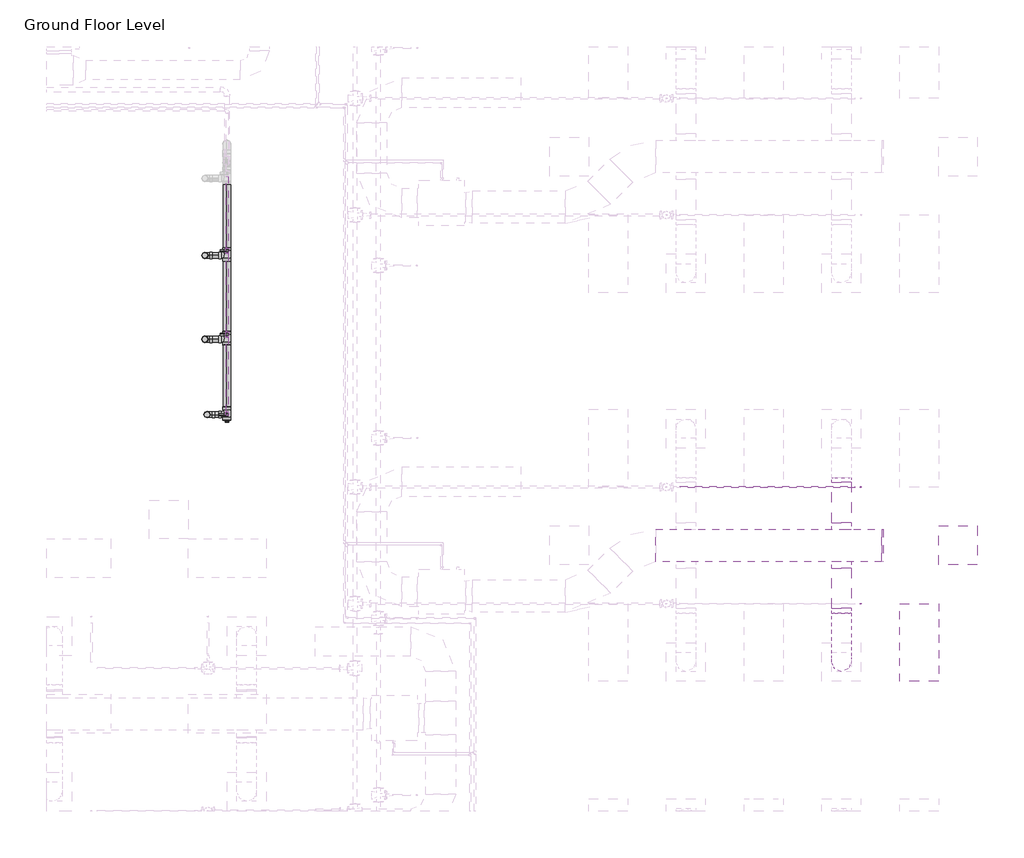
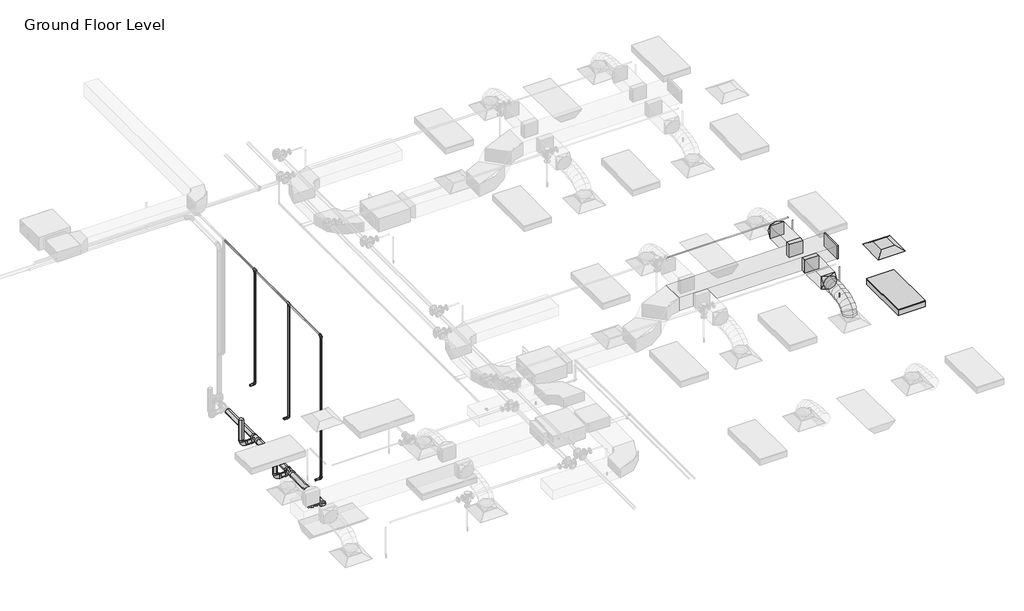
# One storey, part 65 of 74: 21 pipe segments, 13 pipe fittings, 5 duct fittings, 4 duct segments, 2 fire suppression terminals, 1 air terminal, 1 light fixture.
"""IFC4 building model written with IfcOpenShell, lengths in millimetres."""

from ifc_helpers import new_model, si_unit, point, frame, frame_2d, origin, place, context, project, spatial, polyline, circle_curve, ellipse_curve, trimmed, segment, composite_curve, outline, extrude, transform, mapped, element, save
from ifc_brep_helpers import plane_surface, cylinder_surface, advanced_brep
from components import m_return_diffuser_600_x_600_face_300_x_300_connection_ff221211, m_rectangular_endcap_standard_72d4d00d, m_rectangular_takeoff_standard_cb0ccb98, m_rectangular_takeoff_standard_2be5eba1, m_rectangular_to_round_transition_angle_45_degree_641efff0, m_sprinkler_dry_pendent_hosted_15_mm_dry_pendent_9bda8e11, m_troffer_light_parabolic_rectangular1_0600x1200mm_4_lamp_86473d4a, m_bend_pvc_sch_40_dwv_standard_a4b99d37, m_plug_pvc_sch_40_dwv_standard_6c40de1c, m_tee_reducing_sanitary_pvc_sch_40_dwv_standard_b49161a9, standard_517a5a8d, standard_72b35c3b, standard_bfa7e4ca

model = new_model("IFC4")

# Units and contexts
model_context = context("Model", 3, world=origin())
ifc_project = project(units=[si_unit("LENGTHUNIT", "METRE", prefix="MILLI")], contexts=[model_context])

# Site, building, storey
site = spatial("IfcSite", under=ifc_project)
building = spatial("IfcBuilding", under=site)
storey = spatial("IfcBuildingStorey", under=building, Name="Ground Floor Level", Elevation=900.0)

# Air terminal
placement = place(None, origin())
m_return_diffuser_600_x_600_face_300_x_300_connection_shape = m_return_diffuser_600_x_600_face_300_x_300_connection_ff221211(model_context)
element("IfcAirTerminal", 1, ObjectType="M_Return Diffuser : 600 x 600 Face 300 x 300 Connection", at=placement, inside=storey, context=model_context, shape_type="MappedRepresentation", body=[
    mapped(m_return_diffuser_600_x_600_face_300_x_300_connection_shape, transform((14942.7672395, 6735.2153534, 3650.0), x_axis=(1.0, 0.0, 0.0), y_axis=(0.0, 1.0, 0.0), z_axis=(0.0, 0.0, 1.0))),
])

# Duct fittings
m_rectangular_endcap_standard_shape = m_rectangular_endcap_standard_72d4d00d(model_context)
element("IfcDuctFitting", 2, ObjectType="M_Rectangular Endcap : Standard", at=placement, inside=storey, context=model_context, shape_type="MappedRepresentation", body=[
    mapped(m_rectangular_endcap_standard_shape, transform((13766.7301365, 6735.2153534, 4100.0), x_axis=(1.0, 0.0, 0.0), y_axis=(0.0, 1.0, 0.0), z_axis=(0.0, 0.0, 1.0))),
])
m_rectangular_takeoff_standard_shape = m_rectangular_takeoff_standard_cb0ccb98(model_context)
element("IfcDuctFitting", 3, ObjectType="M_Rectangular Takeoff : Standard", at=placement, inside=storey, context=model_context, shape_type="MappedRepresentation", body=[
    mapped(m_rectangular_takeoff_standard_shape, transform((13142.7672395, 6985.2153534, 4100.0), x_axis=(0.0, 1.0, 0.0), y_axis=(1.0, 0.0, 0.0), z_axis=(0.0, 0.0, -1.0))),
])
m_rectangular_takeoff_standard_2_shape = m_rectangular_takeoff_standard_2be5eba1(model_context)
element("IfcDuctFitting", 4, ObjectType="M_Rectangular Takeoff : Standard", at=placement, inside=storey, context=model_context, shape_type="MappedRepresentation", body=[
    mapped(m_rectangular_takeoff_standard_2_shape, transform((13142.7672395, 6485.2153534, 4100.0), x_axis=(0.0, -1.0, 0.0), y_axis=(-1.0, 0.0, 0.0), z_axis=(0.0, 0.0, -1.0))),
])
m_rectangular_to_round_transition_angle_45_degree_shape = m_rectangular_to_round_transition_angle_45_degree_641efff0(model_context)
element("IfcDuctFitting", 5, ObjectType="M_Rectangular to Round Transition - Angle : 45 Degree", at=placement, inside=storey, context=model_context, shape_type="MappedRepresentation", body=[
    mapped(m_rectangular_to_round_transition_angle_45_degree_shape, transform((13142.7672395, 5762.5512847, 4100.0), x_axis=(0.0, -1.0, 0.0), y_axis=(1.0, 0.0, 0.0), z_axis=(0.0, 0.0, 1.0))),
])
element("IfcDuctFitting", 6, ObjectType="M_Rectangular to Round Transition - Angle : 45 Degree", at=placement, inside=storey, context=model_context, shape_type="MappedRepresentation", body=[
    mapped(m_rectangular_to_round_transition_angle_45_degree_shape, transform((13142.7672395, 7707.8794221, 4100.0), x_axis=(0.0, 1.0, 0.0), y_axis=(-1.0, 0.0, 0.0), z_axis=(0.0, 0.0, 1.0))),
])

# Duct segments
element("IfcDuctSegment", 7, ObjectType="Flex - Round", at=placement, inside=storey, context=model_context, shape_type="AdvancedBrep", body=[
    advanced_brep(
    [(13292.7672395, 4935.2153534, 3826.6), (13142.7672395, 4785.2153534, 3826.6), (12992.7672395, 4935.2153534, 3826.6), (13142.7672395, 5085.2153534, 3826.6), (13292.7672395, 4935.2153534, 3857.9377114), (13142.7672395, 4785.2153534, 3883.5809337), (12992.7672395, 4935.2153534, 3857.9377114), (13142.7672395, 5085.2153534, 3832.2944892), (13292.7672395, 4952.2312859, 3906.2505728), (13142.7672395, 4818.493307, 3978.0660967), (12992.7672395, 4952.2312859, 3906.2505728), (13142.7672395, 5085.9692649, 3834.435049), (13292.7672395, 4999.4151663, 3968.7113131), (13142.7672395, 4895.209267, 4079.6206026), (12992.7672395, 4999.4151663, 3968.7113131), (13142.7672395, 5103.6210655, 3857.8020236), (13292.7672395, 5070.9711184, 4016.0700639), (13142.7672395, 5002.0370628, 4150.3237489), (12992.7672395, 5070.9711184, 4016.0700639), (13142.7672395, 5139.9051741, 3881.8163788), (13292.7672395, 5161.1032664, 4050.4146682), (13142.7672395, 5117.5425033, 4194.3367758), (12992.7672395, 5161.1032664, 4050.4146682), (13142.7672395, 5204.6640296, 3906.4925606), (13292.7672395, 5264.0157343, 4073.8329691), (13142.7672395, 5237.4548103, 4221.6234841), (12992.7672395, 5264.0157343, 4073.8329691), (13142.7672395, 5290.5766583, 3926.0424542), (13292.7672395, 5373.912646, 4088.4128097), (13142.7672395, 5358.7617437, 4237.7170733), (12992.7672395, 5373.912646, 4088.4128097), (13142.7672395, 5389.0635483, 3939.1085462), (13292.7672395, 5484.9981256, 4096.242033), (13142.7672395, 5477.4927974, 4246.085151), (12992.7672395, 5484.9981256, 4096.242033), (13142.7672395, 5492.5034538, 3946.398915), (13292.7672395, 5591.4762972, 4099.4084821), (13142.7672395, 5588.7848041, 4249.394754), (12992.7672395, 5591.4762972, 4099.4084821), (13142.7672395, 5594.1677903, 3949.4222102), (13292.7672395, 5687.5512847, 4100.0), (13142.7672395, 5688.4747925, 3950.0028429), (12992.7672395, 5687.5512847, 4100.0), (13142.7672395, 5686.6277768, 4249.9971571)],
    [
        (0, 1, circle_curve(frame((13142.7672395, 4935.2153534, 3826.6), z_axis=(0.0, 0.0, -1.0), x_axis=(1.0, 0.0, 0.0)), 150.0)),
        (1, 2, circle_curve(frame((13142.7672395, 4935.2153534, 3826.6), z_axis=(0.0, 0.0, -1.0), x_axis=(1.0, 0.0, 0.0)), 150.0)),
        (2, 3, circle_curve(frame((13142.7672395, 4935.2153534, 3826.6), z_axis=(0.0, 0.0, -1.0), x_axis=(1.0, 0.0, 0.0)), 150.0)),
        (3, 0, circle_curve(frame((13142.7672395, 4935.2153534, 3826.6), z_axis=(0.0, 0.0, -1.0), x_axis=(1.0, 0.0, 0.0)), 150.0)),
        (0, 4),
        (4, 5, ellipse_curve(frame((13142.7672395, 4935.2153534, 3857.9377114), z_axis=(0.0, -0.16851014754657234, -0.9856999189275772), x_axis=(0.0, 0.9856999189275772, -0.1685101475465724)), 152.176131, 150.0)),
        (5, 1),
        (5, 6, ellipse_curve(frame((13142.7672395, 4935.2153534, 3857.9377114), z_axis=(0.0, -0.16851014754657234, -0.9856999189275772), x_axis=(0.0, 0.9856999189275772, -0.1685101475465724)), 152.176131, 150.0)),
        (6, 2),
        (6, 7, ellipse_curve(frame((13142.7672395, 4935.2153534, 3857.9377114), z_axis=(0.0, -0.16851014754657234, -0.9856999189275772), x_axis=(0.0, 0.9856999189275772, -0.1685101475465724)), 152.176131, 150.0)),
        (7, 3),
        (7, 4, ellipse_curve(frame((13142.7672395, 4935.2153534, 3857.9377114), z_axis=(0.0, -0.16851014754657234, -0.9856999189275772), x_axis=(0.0, 0.9856999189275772, -0.1685101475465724)), 152.176131, 150.0)),
        (4, 8),
        (8, 9, ellipse_curve(frame((13142.7672395, 4952.2312859, 3906.2505728), z_axis=(0.0, -0.4730922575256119, -0.8810128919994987), x_axis=(0.0, 0.8810128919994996, -0.47309225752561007)), 151.8002519, 150.0)),
        (9, 5),
        (9, 10, ellipse_curve(frame((13142.7672395, 4952.2312859, 3906.2505728), z_axis=(0.0, -0.4730922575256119, -0.8810128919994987), x_axis=(0.0, 0.8810128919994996, -0.47309225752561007)), 151.8002519, 150.0)),
        (10, 6),
        (10, 11, ellipse_curve(frame((13142.7672395, 4952.2312859, 3906.2505728), z_axis=(0.0, -0.4730922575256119, -0.8810128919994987), x_axis=(0.0, 0.8810128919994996, -0.47309225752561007)), 151.8002519, 150.0)),
        (11, 7),
        (11, 8, ellipse_curve(frame((13142.7672395, 4952.2312859, 3906.2505728), z_axis=(0.0, -0.4730922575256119, -0.8810128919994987), x_axis=(0.0, 0.8810128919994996, -0.47309225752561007)), 151.8002519, 150.0)),
        (8, 12),
        (12, 13, ellipse_curve(frame((13142.7672395, 4999.4151663, 3968.7113131), z_axis=(0.0, -0.7287877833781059, -0.6847396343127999), x_axis=(0.0, 0.6847396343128, -0.7287877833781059)), 152.1832446, 150.0)),
        (13, 9),
        (13, 14, ellipse_curve(frame((13142.7672395, 4999.4151663, 3968.7113131), z_axis=(0.0, -0.7287877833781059, -0.6847396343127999), x_axis=(0.0, 0.6847396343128, -0.7287877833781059)), 152.1832446, 150.0)),
        (14, 10),
        (14, 15, ellipse_curve(frame((13142.7672395, 4999.4151663, 3968.7113131), z_axis=(0.0, -0.7287877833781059, -0.6847396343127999), x_axis=(0.0, 0.6847396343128, -0.7287877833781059)), 152.1832446, 150.0)),
        (15, 11),
        (15, 12, ellipse_curve(frame((13142.7672395, 4999.4151663, 3968.7113131), z_axis=(0.0, -0.7287877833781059, -0.6847396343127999), x_axis=(0.0, 0.6847396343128, -0.7287877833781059)), 152.1832446, 150.0)),
        (12, 16),
        (16, 17, ellipse_curve(frame((13142.7672395, 5070.9711184, 4016.0700639), z_axis=(0.0, -0.8895859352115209, -0.4567678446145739), x_axis=(0.0, 0.4567678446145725, -0.8895859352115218)), 150.91705, 150.0)),
        (17, 13),
        (17, 18, ellipse_curve(frame((13142.7672395, 5070.9711184, 4016.0700639), z_axis=(0.0, -0.8895859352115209, -0.4567678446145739), x_axis=(0.0, 0.4567678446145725, -0.8895859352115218)), 150.91705, 150.0)),
        (18, 14),
        (18, 19, ellipse_curve(frame((13142.7672395, 5070.9711184, 4016.0700639), z_axis=(0.0, -0.8895859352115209, -0.4567678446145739), x_axis=(0.0, 0.4567678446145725, -0.8895859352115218)), 150.91705, 150.0)),
        (19, 15),
        (19, 16, ellipse_curve(frame((13142.7672395, 5070.9711184, 4016.0700639), z_axis=(0.0, -0.8895859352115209, -0.4567678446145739), x_axis=(0.0, 0.4567678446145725, -0.8895859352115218)), 150.91705, 150.0)),
        (16, 20),
        (20, 21, ellipse_curve(frame((13142.7672395, 5161.1032664, 4050.4146682), z_axis=(0.0, -0.9571203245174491, -0.28969067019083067), x_axis=(0.0, 0.28969067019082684, -0.9571203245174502)), 150.369921, 150.0)),
        (21, 17),
        (21, 22, ellipse_curve(frame((13142.7672395, 5161.1032664, 4050.4146682), z_axis=(0.0, -0.9571203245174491, -0.28969067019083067), x_axis=(0.0, 0.28969067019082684, -0.9571203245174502)), 150.369921, 150.0)),
        (22, 18),
        (22, 23, ellipse_curve(frame((13142.7672395, 5161.1032664, 4050.4146682), z_axis=(0.0, -0.9571203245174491, -0.28969067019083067), x_axis=(0.0, 0.28969067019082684, -0.9571203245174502)), 150.369921, 150.0)),
        (23, 19),
        (23, 20, ellipse_curve(frame((13142.7672395, 5161.1032664, 4050.4146682), z_axis=(0.0, -0.9571203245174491, -0.28969067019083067), x_axis=(0.0, 0.28969067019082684, -0.9571203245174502)), 150.369921, 150.0)),
        (20, 24),
        (24, 25, ellipse_curve(frame((13142.7672395, 5264.0157343, 4073.8329691), z_axis=(0.0, -0.9842313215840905, -0.17688613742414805), x_axis=(0.0, 0.17688613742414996, -0.9842313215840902)), 150.1583131, 150.0)),
        (25, 21),
        (25, 26, ellipse_curve(frame((13142.7672395, 5264.0157343, 4073.8329691), z_axis=(0.0, -0.9842313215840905, -0.17688613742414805), x_axis=(0.0, 0.17688613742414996, -0.9842313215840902)), 150.1583131, 150.0)),
        (26, 22),
        (26, 27, ellipse_curve(frame((13142.7672395, 5264.0157343, 4073.8329691), z_axis=(0.0, -0.9842313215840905, -0.17688613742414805), x_axis=(0.0, 0.17688613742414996, -0.9842313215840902)), 150.1583131, 150.0)),
        (27, 23),
        (27, 24, ellipse_curve(frame((13142.7672395, 5264.0157343, 4073.8329691), z_axis=(0.0, -0.9842313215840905, -0.17688613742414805), x_axis=(0.0, 0.17688613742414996, -0.9842313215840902)), 150.1583131, 150.0)),
        (24, 28),
        (28, 29, ellipse_curve(frame((13142.7672395, 5373.912646, 4088.4128097), z_axis=(0.0, -0.9948906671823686, -0.10095821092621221), x_axis=(0.0, 0.10095821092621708, -0.9948906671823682)), 150.0710264, 150.0)),
        (29, 25),
        (29, 30, ellipse_curve(frame((13142.7672395, 5373.912646, 4088.4128097), z_axis=(0.0, -0.9948906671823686, -0.10095821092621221), x_axis=(0.0, 0.10095821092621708, -0.9948906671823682)), 150.0710264, 150.0)),
        (30, 26),
        (30, 31, ellipse_curve(frame((13142.7672395, 5373.912646, 4088.4128097), z_axis=(0.0, -0.9948906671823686, -0.10095821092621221), x_axis=(0.0, 0.10095821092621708, -0.9948906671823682)), 150.0710264, 150.0)),
        (31, 27),
        (31, 28, ellipse_curve(frame((13142.7672395, 5373.912646, 4088.4128097), z_axis=(0.0, -0.9948906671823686, -0.10095821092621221), x_axis=(0.0, 0.10095821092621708, -0.9948906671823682)), 150.0710264, 150.0)),
        (28, 32),
        (32, 33, ellipse_curve(frame((13142.7672395, 5484.9981256, 4096.242033), z_axis=(0.0, -0.9987479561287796, -0.05002519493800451), x_axis=(0.0, 0.050025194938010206, -0.9987479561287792)), 150.0309634, 150.0)),
        (33, 29),
        (33, 34, ellipse_curve(frame((13142.7672395, 5484.9981256, 4096.242033), z_axis=(0.0, -0.9987479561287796, -0.05002519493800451), x_axis=(0.0, 0.050025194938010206, -0.9987479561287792)), 150.0309634, 150.0)),
        (34, 30),
        (34, 35, ellipse_curve(frame((13142.7672395, 5484.9981256, 4096.242033), z_axis=(0.0, -0.9987479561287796, -0.05002519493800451), x_axis=(0.0, 0.050025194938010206, -0.9987479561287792)), 150.0309634, 150.0)),
        (35, 31),
        (35, 32, ellipse_curve(frame((13142.7672395, 5484.9981256, 4096.242033), z_axis=(0.0, -0.9987479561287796, -0.05002519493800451), x_axis=(0.0, 0.050025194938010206, -0.9987479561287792)), 150.0309634, 150.0)),
        (32, 36),
        (36, 37, ellipse_curve(frame((13142.7672395, 5591.4762972, 4099.4084821), z_axis=(0.0, -0.9998390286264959, -0.017942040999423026), x_axis=(0.0, 0.01794204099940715, -0.9998390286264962)), 150.0104193, 150.0)),
        (37, 33),
        (37, 38, ellipse_curve(frame((13142.7672395, 5591.4762972, 4099.4084821), z_axis=(0.0, -0.9998390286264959, -0.017942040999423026), x_axis=(0.0, 0.01794204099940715, -0.9998390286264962)), 150.0104193, 150.0)),
        (38, 34),
        (38, 39, ellipse_curve(frame((13142.7672395, 5591.4762972, 4099.4084821), z_axis=(0.0, -0.9998390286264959, -0.017942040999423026), x_axis=(0.0, 0.01794204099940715, -0.9998390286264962)), 150.0104193, 150.0)),
        (39, 35),
        (39, 36, ellipse_curve(frame((13142.7672395, 5591.4762972, 4099.4084821), z_axis=(0.0, -0.9998390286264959, -0.017942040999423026), x_axis=(0.0, 0.01794204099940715, -0.9998390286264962)), 150.0104193, 150.0)),
        (40, 41, circle_curve(frame((13142.7672395, 5687.5512847, 4100.0), z_axis=(0.0, 0.9999810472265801, 0.006156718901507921), x_axis=(1.0, 0.0, 0.0)), 150.0)),
        (41, 42, circle_curve(frame((13142.7672395, 5687.5512847, 4100.0), z_axis=(0.0, 0.9999810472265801, 0.006156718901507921), x_axis=(1.0, 0.0, 0.0)), 150.0)),
        (42, 43, circle_curve(frame((13142.7672395, 5687.5512847, 4100.0), z_axis=(0.0, 0.9999810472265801, 0.006156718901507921), x_axis=(1.0, 0.0, 0.0)), 150.0)),
        (43, 40, circle_curve(frame((13142.7672395, 5687.5512847, 4100.0), z_axis=(0.0, 0.9999810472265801, 0.006156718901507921), x_axis=(1.0, 0.0, 0.0)), 150.0)),
        (36, 40),
        (43, 37),
        (42, 38),
        (41, 39),
    ],
    [
        plane_surface(frame((13142.7672395, 4785.2153534, 3826.6), z_axis=(0.0, 0.0, -1.0), x_axis=(1.0, 0.0, 0.0))),
        cylinder_surface(frame((13142.7672395, 4935.2153534, 3826.6), z_axis=(0.0, 0.0, -1.0), x_axis=(1.0, 0.0, 0.0)), 150.0),
        cylinder_surface(frame((13142.7672395, 4935.2153534, 3857.9377114), z_axis=(0.0, -0.3322008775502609, -0.9432086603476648), x_axis=(1.0, 0.0, 0.0)), 150.0),
        cylinder_surface(frame((13142.7672395, 4952.2312859, 3906.2505728), z_axis=(0.0, -0.6027625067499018, -0.7979206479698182), x_axis=(1.0, 0.0, 0.0)), 150.0),
        cylinder_surface(frame((13142.7672395, 4999.4151663, 3968.7113131), z_axis=(0.0, -0.8339024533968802, -0.5519118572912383), x_axis=(1.0, 0.0, 0.0)), 150.0),
        cylinder_surface(frame((13142.7672395, 5070.9711184, 4016.0700639), z_axis=(0.0, -0.934458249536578, -0.35607271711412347), x_axis=(1.0, 0.0, 0.0)), 150.0),
        cylinder_surface(frame((13142.7672395, 5161.1032664, 4050.4146682), z_axis=(0.0, -0.9750732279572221, -0.22188330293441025), x_axis=(1.0, 0.0, 0.0)), 150.0),
        cylinder_surface(frame((13142.7672395, 5264.0157343, 4073.8329691), z_axis=(0.0, -0.9913140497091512, -0.1315159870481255), x_axis=(1.0, 0.0, 0.0)), 150.0),
        cylinder_surface(frame((13142.7672395, 5373.912646, 4088.4128097), z_axis=(0.0, -0.9975255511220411, -0.07030487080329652), x_axis=(1.0, 0.0, 0.0)), 150.0),
        cylinder_surface(frame((13142.7672395, 5484.9981256, 4096.242033), z_axis=(0.0, -0.9995581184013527, -0.02972487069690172), x_axis=(1.0, 0.0, 0.0)), 150.0),
        plane_surface(frame((13142.7672395, 5686.6277768, 4249.9971571), z_axis=(0.0, 0.9999810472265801, 0.0061567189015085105), x_axis=(1.0, 0.0, 0.0))),
        cylinder_surface(frame((13142.7672395, 5591.4762972, 4099.4084821), z_axis=(0.0, -0.9999810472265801, -0.006156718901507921), x_axis=(1.0, 0.0, 0.0)), 150.0),
    ],
    [
        (0, [[1, 2, 3, 4]]),
        (1, [[-1, 5, 6, 7]]),
        (1, [[-2, -7, 8, 9]]),
        (1, [[-3, -9, 10, 11]]),
        (1, [[-4, -11, 12, -5]]),
        (2, [[-6, 13, 14, 15]]),
        (2, [[-8, -15, 16, 17]]),
        (2, [[-10, -17, 18, 19]]),
        (2, [[-12, -19, 20, -13]]),
        (3, [[-14, 21, 22, 23]]),
        (3, [[-16, -23, 24, 25]]),
        (3, [[-18, -25, 26, 27]]),
        (3, [[-20, -27, 28, -21]]),
        (4, [[-22, 29, 30, 31]]),
        (4, [[-24, -31, 32, 33]]),
        (4, [[-26, -33, 34, 35]]),
        (4, [[-28, -35, 36, -29]]),
        (5, [[-30, 37, 38, 39]]),
        (5, [[-32, -39, 40, 41]]),
        (5, [[-34, -41, 42, 43]]),
        (5, [[-36, -43, 44, -37]]),
        (6, [[-38, 45, 46, 47]]),
        (6, [[-40, -47, 48, 49]]),
        (6, [[-42, -49, 50, 51]]),
        (6, [[-44, -51, 52, -45]]),
        (7, [[-46, 53, 54, 55]]),
        (7, [[-48, -55, 56, 57]]),
        (7, [[-50, -57, 58, 59]]),
        (7, [[-52, -59, 60, -53]]),
        (8, [[-54, 61, 62, 63]]),
        (8, [[-56, -63, 64, 65]]),
        (8, [[-58, -65, 66, 67]]),
        (8, [[-60, -67, 68, -61]]),
        (9, [[-62, 69, 70, 71]]),
        (9, [[-64, -71, 72, 73]]),
        (9, [[-66, -73, 74, 75]]),
        (9, [[-68, -75, 76, -69]]),
        (10, [[77, 78, 79, 80]]),
        (11, [[-70, 81, -80, 82]]),
        (11, [[-72, -82, -79, 83]]),
        (11, [[-74, -83, -78, 84]]),
        (11, [[-76, -84, -77, -81]]),
    ],
),
])
element("IfcDuctSegment", 8, ObjectType="Radius Elbows / Taps", at=placement, inside=storey, context=model_context, shape_type="SweptSolid", body=[
    extrude(outline(polyline([(10277.3903083, 6485.2153534), (10277.3903083, 6985.2153534), (13766.7301365, 6985.2153534), (13766.7301365, 6485.2153534), (10277.3903083, 6485.2153534)])), frame((0.0, 0.0, 3950.0), z_axis=(0.0, 0.0, 1.0), x_axis=(1.0, 0.0, 0.0)), (0.0, 0.0, 1.0), 300.0),
])
element("IfcDuctSegment", 9, ObjectType="Radius Elbows / Taps", at=placement, inside=storey, context=model_context, shape_type="SweptSolid", body=[
    extrude(outline(polyline([(13292.7672395, 7086.8153534), (12992.7672395, 7086.8153534), (12992.7672395, 7707.8794221), (13292.7672395, 7707.8794221), (13292.7672395, 7086.8153534)])), frame((0.0, 0.0, 3950.0), z_axis=(0.0, 0.0, 1.0), x_axis=(1.0, 0.0, 0.0)), (0.0, 0.0, 1.0), 300.0),
])
element("IfcDuctSegment", 10, ObjectType="Radius Elbows / Taps", at=placement, inside=storey, context=model_context, shape_type="SweptSolid", body=[
    extrude(outline(polyline([(12992.7672395, 6383.6153534), (13292.7672395, 6383.6153534), (13292.7672395, 5762.5512847), (12992.7672395, 5762.5512847), (12992.7672395, 6383.6153534)])), frame((0.0, 0.0, 3950.0), z_axis=(0.0, 0.0, 1.0), x_axis=(1.0, 0.0, 0.0)), (0.0, 0.0, 1.0), 300.0),
])

# Fire suppression terminals
m_sprinkler_dry_pendent_hosted_15_mm_dry_pendent_shape = m_sprinkler_dry_pendent_hosted_15_mm_dry_pendent_9bda8e11(model_context)
element("IfcFireSuppressionTerminal", 11, ObjectType="M_Sprinkler - Dry - Pendent - Hosted : 15 mm Dry Pendent", at=placement, inside=storey, context=model_context, shape_type="MappedRepresentation", body=[
    mapped(m_sprinkler_dry_pendent_hosted_15_mm_dry_pendent_shape, transform((13442.7672395, 7635.2153534, 3650.0), x_axis=(1.0, 0.0, 0.0), y_axis=(0.0, -1.0, 0.0), z_axis=(0.0, 0.0, -1.0))),
])
element("IfcFireSuppressionTerminal", 12, ObjectType="M_Sprinkler - Dry - Pendent - Hosted : 15 mm Dry Pendent", at=placement, inside=storey, context=model_context, shape_type="MappedRepresentation", body=[
    mapped(m_sprinkler_dry_pendent_hosted_15_mm_dry_pendent_shape, transform((13442.7672395, 5835.2153534, 3650.0), x_axis=(1.0, 0.0, 0.0), y_axis=(0.0, -1.0, 0.0), z_axis=(0.0, 0.0, -1.0))),
])

# Light fixture
m_troffer_light_parabolic_rectangular1_0600x1200mm_4_lamp_shape = m_troffer_light_parabolic_rectangular1_0600x1200mm_4_lamp_86473d4a(model_context)
element("IfcLightFixture", 13, ObjectType="M_Troffer Light - Parabolic Rectangular1 : 0600x1200mm(4 Lamp) - 277V 2", at=placement, inside=storey, context=model_context, shape_type="MappedRepresentation", body=[
    mapped(m_troffer_light_parabolic_rectangular1_0600x1200mm_4_lamp_shape, transform((14283.3013074, 5253.9188549, 3650.0), x_axis=(0.0, 1.0, 0.0), y_axis=(-1.0, 0.0, 0.0), z_axis=(0.0, 0.0, 1.0))),
])

# Pipe fittings
m_bend_pvc_sch_40_dwv_standard_shape = m_bend_pvc_sch_40_dwv_standard_a4b99d37(model_context)
element("IfcPipeFitting", 14, ObjectType="M_Bend - PVC - Sch 40 - DWV : Standard", at=placement, inside=storey, context=model_context, shape_type="MappedRepresentation", body=[
    mapped(m_bend_pvc_sch_40_dwv_standard_shape, transform((3351.3697667, 8754.4159333, 426.6255336), x_axis=(0.0, 0.0, -1.0), y_axis=(1.0, 0.0, 0.0), z_axis=(0.0, -1.0, 0.0))),
])
element("IfcPipeFitting", 15, ObjectType="M_Bend - PVC - Sch 40 - DWV : Standard", at=placement, inside=storey, context=model_context, shape_type="MappedRepresentation", body=[
    mapped(m_bend_pvc_sch_40_dwv_standard_shape, transform((3319.2245422, 9917.654001, 414.9931529), x_axis=(0.0, 0.0, -1.0), y_axis=(1.0, 0.0, 0.0), z_axis=(0.0, -1.0, 0.0))),
])
element("IfcPipeFitting", 16, ObjectType="M_Bend - PVC - Sch 40 - DWV : Standard", at=placement, inside=storey, context=model_context, shape_type="MappedRepresentation", body=[
    mapped(m_bend_pvc_sch_40_dwv_standard_shape, transform((3319.2245422, 11211.6258776, 402.0534342), x_axis=(0.0, 0.0, -1.0), y_axis=(1.0, 0.0, 0.0), z_axis=(0.0, -1.0, 0.0))),
])
m_plug_pvc_sch_40_dwv_standard_shape = m_plug_pvc_sch_40_dwv_standard_6c40de1c(model_context)
element("IfcPipeFitting", 17, ObjectType="M_Plug - PVC - Sch 40 - DWV : Standard", at=placement, inside=storey, context=model_context, shape_type="MappedRepresentation", body=[
    mapped(m_plug_pvc_sch_40_dwv_standard_shape, transform((3657.4922763, 8665.519878, 427.4644942), x_axis=(0.0, -0.9999500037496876, 0.009999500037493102), y_axis=(1.0, 0.0, 0.0), z_axis=(0.0, 0.009999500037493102, 0.9999500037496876))),
])
m_tee_reducing_sanitary_pvc_sch_40_dwv_standard_shape = m_tee_reducing_sanitary_pvc_sch_40_dwv_standard_b49161a9(model_context)
element("IfcPipeFitting", 18, ObjectType="M_Tee Reducing Sanitary - PVC - Sch 40 - DWV : Standard", at=placement, inside=storey, context=model_context, shape_type="MappedRepresentation", body=[
    mapped(m_tee_reducing_sanitary_pvc_sch_40_dwv_standard_shape, transform((3657.4922763, 8754.4154334, 426.5755386), x_axis=(0.0, -0.9999500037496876, 0.009999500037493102), y_axis=(1.0, 0.0, 0.0), z_axis=(0.0, 0.009999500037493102, 0.9999500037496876))),
])
element("IfcPipeFitting", 19, ObjectType="M_Tee Reducing Sanitary - PVC - Sch 40 - DWV : Standard", at=placement, inside=storey, context=model_context, shape_type="MappedRepresentation", body=[
    mapped(m_tee_reducing_sanitary_pvc_sch_40_dwv_standard_shape, transform((3657.4922763, 9917.6535011, 414.9431579), x_axis=(0.0, -0.9999500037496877, 0.009999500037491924), y_axis=(1.0000000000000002, 0.0, 0.0), z_axis=(0.0, 0.009999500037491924, 0.9999500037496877))),
])
element("IfcPipeFitting", 20, ObjectType="M_Tee Reducing Sanitary - PVC - Sch 40 - DWV : Standard", at=placement, inside=storey, context=model_context, shape_type="MappedRepresentation", body=[
    mapped(m_tee_reducing_sanitary_pvc_sch_40_dwv_standard_shape, transform((3657.4922763, 11211.6253777, 402.0034392), x_axis=(0.0, -0.9999500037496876, 0.00999950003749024), y_axis=(1.0, 0.0, 0.0), z_axis=(0.0, 0.00999950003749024, 0.9999500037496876))),
])
standard_shape = standard_517a5a8d(model_context)
element("IfcPipeFitting", 21, ObjectType="M_Elbow - CPVC - Sch 40 : Standard", at=placement, inside=storey, context=model_context, shape_type="MappedRepresentation", body=[
    mapped(standard_shape, transform((3662.4674395, 8754.4154334, 4315.0), x_axis=(0.0, -1.0, 0.0), y_axis=(0.0, 0.0, -1.0), z_axis=(1.0, 0.0, 0.0))),
])
element("IfcPipeFitting", 22, ObjectType="M_Elbow - CPVC - Sch 40 : Standard", at=placement, inside=storey, context=model_context, shape_type="MappedRepresentation", body=[
    mapped(standard_shape, transform((3662.4674395, 9991.0922673, 1655.0), x_axis=(0.0, 0.0, -1.0), y_axis=(-1.0, 0.0, 0.0), z_axis=(0.0, 1.0, 0.0))),
])
element("IfcPipeFitting", 23, ObjectType="M_Elbow - CPVC - Sch 40 : Standard", at=placement, inside=storey, context=model_context, shape_type="MappedRepresentation", body=[
    mapped(standard_shape, transform((3662.4674395, 11285.0641439, 1655.0), x_axis=(0.0, 0.0, -1.0), y_axis=(-1.0, 0.0, 0.0), z_axis=(0.0, 1.0, 0.0))),
])
standard_2_shape = standard_72b35c3b(model_context)
element("IfcPipeFitting", 24, ObjectType="M_Tee - CPVC - Sch 40 : Standard", at=placement, inside=storey, context=model_context, shape_type="MappedRepresentation", body=[
    mapped(standard_2_shape, transform((3662.4674395, 9991.0922673, 4315.0), x_axis=(0.0, -1.0, 0.0), y_axis=(0.0, 0.0, 1.0), z_axis=(-1.0, 0.0, 0.0))),
])
element("IfcPipeFitting", 25, ObjectType="M_Tee - CPVC - Sch 40 : Standard", at=placement, inside=storey, context=model_context, shape_type="MappedRepresentation", body=[
    mapped(standard_2_shape, transform((3662.4674395, 11285.0641439, 4315.0), x_axis=(0.0, -1.0, 0.0), y_axis=(0.0, 0.0, 1.0), z_axis=(-1.0, 0.0, 0.0))),
])
standard_3_shape = standard_bfa7e4ca(model_context)
element("IfcPipeFitting", 26, ObjectType="M_Elbow - CPVC - Sch 40 : Standard", at=placement, inside=storey, context=model_context, shape_type="MappedRepresentation", body=[
    mapped(standard_3_shape, transform((3662.4674395, 8754.4154334, 983.5), x_axis=(0.0, 0.0, -1.0), y_axis=(-1.0, 0.0, 0.0), z_axis=(0.0, 1.0, 0.0))),
])

# Pipe segments
element("IfcPipeSegment", 27, ObjectType="CPVC", at=placement, inside=storey, context=model_context, shape_type="SweptSolid", body=[
    extrude(outline(composite_curve([segment(trimmed(circle_curve(frame_2d((8754.4154334, 983.4999927)), 16.7005), [point((8771.1159334, 983.4999927))], [point((8754.4154334, 966.7994927))], False, "CARTESIAN"), True, "CONTINUOUS"), segment(trimmed(circle_curve(frame_2d((8754.4154334, 983.4999927)), 16.7005), [point((8754.4154334, 966.7994927))], [point((8737.7149334, 983.4999927))], False, "CARTESIAN"), True, "CONTINUOUS"), segment(trimmed(circle_curve(frame_2d((8754.4154334, 983.4999927)), 16.7005), [point((8737.7149334, 983.4999927))], [point((8754.4154334, 1000.2004927))], False, "CARTESIAN"), True, "CONTINUOUS"), segment(trimmed(circle_curve(frame_2d((8754.4154334, 983.4999927)), 16.7005), [point((8754.4154334, 1000.2004927))], [point((8771.1159334, 983.4999927))], False, "CARTESIAN"), True, "CONTINUOUS")], self_intersect=False)), frame((3537.5384422, 0.0, 0.0), z_axis=(1.0, 0.0, 0.0), x_axis=(0.0, 1.0, 0.0)), (0.0, 0.0, 1.0), 81.6664508),
])
element("IfcPipeSegment", 28, ObjectType="CPVC", at=placement, inside=storey, context=model_context, shape_type="SweptSolid", body=[
    extrude(outline(composite_curve([segment(trimmed(circle_curve(frame_2d((3662.4674395, 8754.4154334)), 16.7005), [point((3679.1679395, 8754.4154334))], [point((3662.4674395, 8737.7149334))], False, "CARTESIAN"), True, "CONTINUOUS"), segment(trimmed(circle_curve(frame_2d((3662.4674395, 8754.4154334)), 16.7005), [point((3662.4674395, 8737.7149334))], [point((3645.7669395, 8754.4154334))], False, "CARTESIAN"), True, "CONTINUOUS"), segment(trimmed(circle_curve(frame_2d((3662.4674395, 8754.4154334)), 16.7005), [point((3645.7669395, 8754.4154334))], [point((3662.4674395, 8771.1159334))], False, "CARTESIAN"), True, "CONTINUOUS"), segment(trimmed(circle_curve(frame_2d((3662.4674395, 8754.4154334)), 16.7005), [point((3662.4674395, 8771.1159334))], [point((3679.1679395, 8754.4154334))], False, "CARTESIAN"), True, "CONTINUOUS")], self_intersect=False)), frame((0.0, 0.0, 1026.7625464), z_axis=(0.0, 0.0, 1.0), x_axis=(1.0, 0.0, 0.0)), (0.0, 0.0, 1.0), 3244.9749036),
])
element("IfcPipeSegment", 29, ObjectType="CPVC", at=placement, inside=storey, context=model_context, shape_type="SweptSolid", body=[
    extrude(outline(composite_curve([segment(trimmed(circle_curve(frame_2d((4315.0, 3662.4674395)), 16.7005), [point((4315.0, 3645.7669395))], [point((4298.2995, 3662.4674395))], False, "CARTESIAN"), True, "CONTINUOUS"), segment(trimmed(circle_curve(frame_2d((4315.0, 3662.4674395)), 16.7005), [point((4298.2995, 3662.4674395))], [point((4315.0, 3679.1679395))], False, "CARTESIAN"), True, "CONTINUOUS"), segment(trimmed(circle_curve(frame_2d((4315.0, 3662.4674395)), 16.7005), [point((4315.0, 3679.1679395))], [point((4331.7005, 3662.4674395))], False, "CARTESIAN"), True, "CONTINUOUS"), segment(trimmed(circle_curve(frame_2d((4315.0, 3662.4674395)), 16.7005), [point((4331.7005, 3662.4674395))], [point((4315.0, 3645.7669395))], False, "CARTESIAN"), True, "CONTINUOUS")], self_intersect=False)), frame((0.0, 8797.6779834, 0.0), z_axis=(0.0, 1.0, 0.0), x_axis=(0.0, 0.0, 1.0)), (0.0, 0.0, 1.0), 1153.7140839),
])
element("IfcPipeSegment", 30, ObjectType="CPVC", at=placement, inside=storey, context=model_context, shape_type="SweptSolid", body=[
    extrude(outline(composite_curve([segment(trimmed(circle_curve(frame_2d((9991.0922673, 1655.0)), 16.7005), [point((10007.7927673, 1655.0))], [point((9991.0922673, 1638.2995))], False, "CARTESIAN"), True, "CONTINUOUS"), segment(trimmed(circle_curve(frame_2d((9991.0922673, 1655.0)), 16.7005), [point((9991.0922673, 1638.2995))], [point((9974.3917673, 1655.0))], False, "CARTESIAN"), True, "CONTINUOUS"), segment(trimmed(circle_curve(frame_2d((9991.0922673, 1655.0)), 16.7005), [point((9974.3917673, 1655.0))], [point((9991.0922673, 1671.7005))], False, "CARTESIAN"), True, "CONTINUOUS"), segment(trimmed(circle_curve(frame_2d((9991.0922673, 1655.0)), 16.7005), [point((9991.0922673, 1671.7005))], [point((10007.7927673, 1655.0))], False, "CARTESIAN"), True, "CONTINUOUS")], self_intersect=False)), frame((3552.7672395, 0.0, 0.0), z_axis=(1.0, 0.0, 0.0), x_axis=(0.0, 1.0, 0.0)), (0.0, 0.0, 1.0), 66.43765),
])
element("IfcPipeSegment", 31, ObjectType="CPVC", at=placement, inside=storey, context=model_context, shape_type="SweptSolid", body=[
    extrude(outline(composite_curve([segment(trimmed(circle_curve(frame_2d((3662.4674395, 9991.0922673)), 16.7005), [point((3679.1679395, 9991.0922673))], [point((3662.4674395, 9974.3917673))], False, "CARTESIAN"), True, "CONTINUOUS"), segment(trimmed(circle_curve(frame_2d((3662.4674395, 9991.0922673)), 16.7005), [point((3662.4674395, 9974.3917673))], [point((3645.7669395, 9991.0922673))], False, "CARTESIAN"), True, "CONTINUOUS"), segment(trimmed(circle_curve(frame_2d((3662.4674395, 9991.0922673)), 16.7005), [point((3645.7669395, 9991.0922673))], [point((3662.4674395, 10007.7927673))], False, "CARTESIAN"), True, "CONTINUOUS"), segment(trimmed(circle_curve(frame_2d((3662.4674395, 9991.0922673)), 16.7005), [point((3662.4674395, 10007.7927673))], [point((3679.1679395, 9991.0922673))], False, "CARTESIAN"), True, "CONTINUOUS")], self_intersect=False)), frame((0.0, 0.0, 1698.26255), z_axis=(0.0, 0.0, 1.0), x_axis=(1.0, 0.0, 0.0)), (0.0, 0.0, 1.0), 2577.03725),
])
element("IfcPipeSegment", 32, ObjectType="CPVC", at=placement, inside=storey, context=model_context, shape_type="SweptSolid", body=[
    extrude(outline(composite_curve([segment(trimmed(circle_curve(frame_2d((4315.0, 3662.4674395)), 16.7005), [point((4315.0, 3645.7669395))], [point((4298.2995, 3662.4674395))], False, "CARTESIAN"), True, "CONTINUOUS"), segment(trimmed(circle_curve(frame_2d((4315.0, 3662.4674395)), 16.7005), [point((4298.2995, 3662.4674395))], [point((4315.0, 3679.1679395))], False, "CARTESIAN"), True, "CONTINUOUS"), segment(trimmed(circle_curve(frame_2d((4315.0, 3662.4674395)), 16.7005), [point((4315.0, 3679.1679395))], [point((4331.7005, 3662.4674395))], False, "CARTESIAN"), True, "CONTINUOUS"), segment(trimmed(circle_curve(frame_2d((4315.0, 3662.4674395)), 16.7005), [point((4331.7005, 3662.4674395))], [point((4315.0, 3645.7669395))], False, "CARTESIAN"), True, "CONTINUOUS")], self_intersect=False)), frame((0.0, 10030.7924673, 0.0), z_axis=(0.0, 1.0, 0.0), x_axis=(0.0, 0.0, 1.0)), (0.0, 0.0, 1.0), 1214.5714766),
])
element("IfcPipeSegment", 33, ObjectType="CPVC", at=placement, inside=storey, context=model_context, shape_type="SweptSolid", body=[
    extrude(outline(composite_curve([segment(trimmed(circle_curve(frame_2d((11285.0641439, 1655.0)), 16.7005), [point((11301.7646439, 1655.0))], [point((11285.0641439, 1638.2995))], False, "CARTESIAN"), True, "CONTINUOUS"), segment(trimmed(circle_curve(frame_2d((11285.0641439, 1655.0)), 16.7005), [point((11285.0641439, 1638.2995))], [point((11268.3636439, 1655.0))], False, "CARTESIAN"), True, "CONTINUOUS"), segment(trimmed(circle_curve(frame_2d((11285.0641439, 1655.0)), 16.7005), [point((11268.3636439, 1655.0))], [point((11285.0641439, 1671.7005))], False, "CARTESIAN"), True, "CONTINUOUS"), segment(trimmed(circle_curve(frame_2d((11285.0641439, 1655.0)), 16.7005), [point((11285.0641439, 1671.7005))], [point((11301.7646439, 1655.0))], False, "CARTESIAN"), True, "CONTINUOUS")], self_intersect=False)), frame((3552.7672395, 0.0, 0.0), z_axis=(1.0, 0.0, 0.0), x_axis=(0.0, 1.0, 0.0)), (0.0, 0.0, 1.0), 66.43765),
])
element("IfcPipeSegment", 34, ObjectType="CPVC", at=placement, inside=storey, context=model_context, shape_type="SweptSolid", body=[
    extrude(outline(composite_curve([segment(trimmed(circle_curve(frame_2d((3662.4674395, 11285.0641439)), 16.7005), [point((3679.1679395, 11285.0641439))], [point((3662.4674395, 11268.3636439))], False, "CARTESIAN"), True, "CONTINUOUS"), segment(trimmed(circle_curve(frame_2d((3662.4674395, 11285.0641439)), 16.7005), [point((3662.4674395, 11268.3636439))], [point((3645.7669395, 11285.0641439))], False, "CARTESIAN"), True, "CONTINUOUS"), segment(trimmed(circle_curve(frame_2d((3662.4674395, 11285.0641439)), 16.7005), [point((3645.7669395, 11285.0641439))], [point((3662.4674395, 11301.7646439))], False, "CARTESIAN"), True, "CONTINUOUS"), segment(trimmed(circle_curve(frame_2d((3662.4674395, 11285.0641439)), 16.7005), [point((3662.4674395, 11301.7646439))], [point((3679.1679395, 11285.0641439))], False, "CARTESIAN"), True, "CONTINUOUS")], self_intersect=False)), frame((0.0, 0.0, 1698.26255), z_axis=(0.0, 0.0, 1.0), x_axis=(1.0, 0.0, 0.0)), (0.0, 0.0, 1.0), 2577.03725),
])
element("IfcPipeSegment", 35, ObjectType="CPVC", at=placement, inside=storey, context=model_context, shape_type="SweptSolid", body=[
    extrude(outline(composite_curve([segment(trimmed(circle_curve(frame_2d((4315.0, 3662.4674395)), 16.7005), [point((4315.0, 3645.7669395))], [point((4298.2995, 3662.4674395))], False, "CARTESIAN"), True, "CONTINUOUS"), segment(trimmed(circle_curve(frame_2d((4315.0, 3662.4674395)), 16.7005), [point((4298.2995, 3662.4674395))], [point((4315.0, 3679.1679395))], False, "CARTESIAN"), True, "CONTINUOUS"), segment(trimmed(circle_curve(frame_2d((4315.0, 3662.4674395)), 16.7005), [point((4315.0, 3679.1679395))], [point((4331.7005, 3662.4674395))], False, "CARTESIAN"), True, "CONTINUOUS"), segment(trimmed(circle_curve(frame_2d((4315.0, 3662.4674395)), 16.7005), [point((4331.7005, 3662.4674395))], [point((4315.0, 3645.7669395))], False, "CARTESIAN"), True, "CONTINUOUS")], self_intersect=False)), frame((0.0, 11324.7643439, 0.0), z_axis=(0.0, 1.0, 0.0), x_axis=(0.0, 0.0, 1.0)), (0.0, 0.0, 1.0), 1110.0122833),
])
element("IfcPipeSegment", 36, ObjectType="PVC - DWV", at=placement, inside=storey, context=model_context, shape_type="SweptSolid", body=[
    extrude(outline(composite_curve([segment(trimmed(circle_curve(frame_2d((0.0, -44.45)), 44.45), [point((-44.45, -44.45))], [point((0.0, 0.0))], False, "CARTESIAN"), True, "CONTINUOUS"), segment(trimmed(circle_curve(frame_2d((0.0, -44.45)), 44.45), [point((0.0, 0.0))], [point((44.45, -44.45))], False, "CARTESIAN"), True, "CONTINUOUS"), segment(trimmed(circle_curve(frame_2d((0.0, -44.45)), 44.45), [point((44.45, -44.45))], [point((0.0, -88.9))], False, "CARTESIAN"), True, "CONTINUOUS"), segment(trimmed(circle_curve(frame_2d((0.0, -44.45)), 44.45), [point((0.0, -88.9))], [point((-44.45, -44.45))], False, "CARTESIAN"), True, "CONTINUOUS")], self_intersect=False)), frame((3351.3697667, 8709.9659333, 542.5256565), z_axis=(0.0, -1.7350781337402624e-06, 0.9999999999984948), x_axis=(-1.0, 0.0, 0.0)), (0.0, 0.0, 1.0), 288.142643),
])
element("IfcPipeSegment", 37, ObjectType="PVC - DWV", at=placement, inside=storey, context=model_context, shape_type="SweptSolid", body=[
    extrude(outline(composite_curve([segment(trimmed(circle_curve(frame_2d((8754.4154334, 426.5755386)), 44.45), [point((8709.9654334, 426.5755386))], [point((8754.4154334, 471.0255386))], False, "CARTESIAN"), True, "CONTINUOUS"), segment(trimmed(circle_curve(frame_2d((8754.4154334, 426.5755386)), 44.45), [point((8754.4154334, 471.0255386))], [point((8798.8654334, 426.5755386))], False, "CARTESIAN"), True, "CONTINUOUS"), segment(trimmed(circle_curve(frame_2d((8754.4154334, 426.5755386)), 44.45), [point((8798.8654334, 426.5755386))], [point((8754.4154334, 382.1255386))], False, "CARTESIAN"), True, "CONTINUOUS"), segment(trimmed(circle_curve(frame_2d((8754.4154334, 426.5755386)), 44.45), [point((8754.4154334, 382.1255386))], [point((8709.9654334, 426.5755386))], False, "CARTESIAN"), True, "CONTINUOUS")], self_intersect=False)), frame((3467.2699667, 0.0, 0.0), z_axis=(1.0, 0.0, 0.0), x_axis=(0.0, 1.0, 0.0)), (0.0, 0.0, 1.0), 61.6221096),
])
element("IfcPipeSegment", 38, ObjectType="PVC - DWV", at=placement, inside=storey, context=model_context, shape_type="SweptSolid", body=[
    extrude(outline(composite_curve([segment(trimmed(circle_curve(frame_2d((0.0, -44.45)), 44.45), [point((-44.45, -44.45))], [point((0.0, 0.0))], False, "CARTESIAN"), True, "CONTINUOUS"), segment(trimmed(circle_curve(frame_2d((0.0, -44.45)), 44.45), [point((0.0, 0.0))], [point((44.45, -44.45))], False, "CARTESIAN"), True, "CONTINUOUS"), segment(trimmed(circle_curve(frame_2d((0.0, -44.45)), 44.45), [point((44.45, -44.45))], [point((0.0, -88.9))], False, "CARTESIAN"), True, "CONTINUOUS"), segment(trimmed(circle_curve(frame_2d((0.0, -44.45)), 44.45), [point((0.0, -88.9))], [point((-44.45, -44.45))], False, "CARTESIAN"), True, "CONTINUOUS")], self_intersect=False)), frame((3319.2245422, 9873.204001, 530.8933045), z_axis=(0.0, -1.0889626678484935e-06, 0.9999999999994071), x_axis=(-1.0, 0.0, 0.0)), (0.0, 0.0, 1.0), 459.1066471),
])
element("IfcPipeSegment", 39, ObjectType="PVC - DWV", at=placement, inside=storey, context=model_context, shape_type="SweptSolid", body=[
    extrude(outline(composite_curve([segment(trimmed(circle_curve(frame_2d((9917.6535011, 414.9431579)), 44.45), [point((9873.2035011, 414.9431579))], [point((9917.6535011, 459.3931579))], False, "CARTESIAN"), True, "CONTINUOUS"), segment(trimmed(circle_curve(frame_2d((9917.6535011, 414.9431579)), 44.45), [point((9917.6535011, 459.3931579))], [point((9962.1035011, 414.9431579))], False, "CARTESIAN"), True, "CONTINUOUS"), segment(trimmed(circle_curve(frame_2d((9917.6535011, 414.9431579)), 44.45), [point((9962.1035011, 414.9431579))], [point((9917.6535011, 370.4931579))], False, "CARTESIAN"), True, "CONTINUOUS"), segment(trimmed(circle_curve(frame_2d((9917.6535011, 414.9431579)), 44.45), [point((9917.6535011, 370.4931579))], [point((9873.2035011, 414.9431579))], False, "CARTESIAN"), True, "CONTINUOUS")], self_intersect=False)), frame((3435.1247422, 0.0, 0.0), z_axis=(1.0, 0.0, 0.0), x_axis=(0.0, 1.0, 0.0)), (0.0, 0.0, 1.0), 93.767334),
])
element("IfcPipeSegment", 40, ObjectType="PVC - DWV", at=placement, inside=storey, context=model_context, shape_type="SweptSolid", body=[
    extrude(outline(composite_curve([segment(trimmed(circle_curve(frame_2d((0.0, -57.15)), 57.15), [point((57.15, -57.15))], [point((0.0, -114.3))], False, "CARTESIAN"), True, "CONTINUOUS"), segment(trimmed(circle_curve(frame_2d((0.0, -57.15)), 57.15), [point((0.0, -114.3))], [point((-57.15, -57.15))], False, "CARTESIAN"), True, "CONTINUOUS"), segment(trimmed(circle_curve(frame_2d((0.0, -57.15)), 57.15), [point((-57.15, -57.15))], [point((0.0, 0.0))], False, "CARTESIAN"), True, "CONTINUOUS"), segment(trimmed(circle_curve(frame_2d((0.0, -57.15)), 57.15), [point((0.0, 0.0))], [point((57.15, -57.15))], False, "CARTESIAN"), True, "CONTINUOUS")], self_intersect=False)), frame((3657.4922763, 9829.3294172, 472.9792562), z_axis=(0.0, -0.9999500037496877, 0.009999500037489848), x_axis=(1.0, 0.0, 0.0)), (0.0, 0.0, 1.0), 953.7462281),
])
element("IfcPipeSegment", 41, ObjectType="PVC - DWV", at=placement, inside=storey, context=model_context, shape_type="SweptSolid", body=[
    extrude(outline(composite_curve([segment(trimmed(circle_curve(frame_2d((0.0, -44.45)), 44.45), [point((-44.45, -44.45))], [point((0.0, 0.0))], False, "CARTESIAN"), True, "CONTINUOUS"), segment(trimmed(circle_curve(frame_2d((0.0, -44.45)), 44.45), [point((0.0, 0.0))], [point((44.45, -44.45))], False, "CARTESIAN"), True, "CONTINUOUS"), segment(trimmed(circle_curve(frame_2d((0.0, -44.45)), 44.45), [point((44.45, -44.45))], [point((0.0, -88.9))], False, "CARTESIAN"), True, "CONTINUOUS"), segment(trimmed(circle_curve(frame_2d((0.0, -44.45)), 44.45), [point((0.0, -88.9))], [point((-44.45, -44.45))], False, "CARTESIAN"), True, "CONTINUOUS")], self_intersect=False)), frame((3319.2245422, 11167.1758776, 517.9535871), z_axis=(0.0, -1.0591120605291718e-06, 0.9999999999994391), x_axis=(-1.0, 0.0, 0.0)), (0.0, 0.0, 1.0), 472.0463658),
])
element("IfcPipeSegment", 42, ObjectType="PVC - DWV", at=placement, inside=storey, context=model_context, shape_type="SweptSolid", body=[
    extrude(outline(composite_curve([segment(trimmed(circle_curve(frame_2d((11211.6253777, 402.0034392)), 44.45), [point((11167.1753777, 402.0034392))], [point((11211.6253777, 446.4534392))], False, "CARTESIAN"), True, "CONTINUOUS"), segment(trimmed(circle_curve(frame_2d((11211.6253777, 402.0034392)), 44.45), [point((11211.6253777, 446.4534392))], [point((11256.0753777, 402.0034392))], False, "CARTESIAN"), True, "CONTINUOUS"), segment(trimmed(circle_curve(frame_2d((11211.6253777, 402.0034392)), 44.45), [point((11256.0753777, 402.0034392))], [point((11211.6253777, 357.5534392))], False, "CARTESIAN"), True, "CONTINUOUS"), segment(trimmed(circle_curve(frame_2d((11211.6253777, 402.0034392)), 44.45), [point((11211.6253777, 357.5534392))], [point((11167.1753777, 402.0034392))], False, "CARTESIAN"), True, "CONTINUOUS")], self_intersect=False)), frame((3435.1247422, 0.0, 0.0), z_axis=(1.0, 0.0, 0.0), x_axis=(0.0, 1.0, 0.0)), (0.0, 0.0, 1.0), 93.767334),
])
element("IfcPipeSegment", 43, ObjectType="PVC - DWV", at=placement, inside=storey, context=model_context, shape_type="SweptSolid", body=[
    extrude(outline(composite_curve([segment(trimmed(circle_curve(frame_2d((0.0, -57.15)), 57.15), [point((57.15, -57.15))], [point((0.0, -114.3))], False, "CARTESIAN"), True, "CONTINUOUS"), segment(trimmed(circle_curve(frame_2d((0.0, -57.15)), 57.15), [point((0.0, -114.3))], [point((-57.15, -57.15))], False, "CARTESIAN"), True, "CONTINUOUS"), segment(trimmed(circle_curve(frame_2d((0.0, -57.15)), 57.15), [point((-57.15, -57.15))], [point((0.0, 0.0))], False, "CARTESIAN"), True, "CONTINUOUS"), segment(trimmed(circle_curve(frame_2d((0.0, -57.15)), 57.15), [point((0.0, 0.0))], [point((57.15, -57.15))], False, "CARTESIAN"), True, "CONTINUOUS")], self_intersect=False)), frame((3657.4922763, 11123.3012938, 460.0395374), z_axis=(0.0, -0.9999500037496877, 0.009999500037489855), x_axis=(1.0, 0.0, 0.0)), (0.0, 0.0, 1.0), 1084.4865736),
])
element("IfcPipeSegment", 44, ObjectType="PVC - DWV", at=placement, inside=storey, context=model_context, shape_type="SweptSolid", body=[
    extrude(outline(composite_curve([segment(trimmed(circle_curve(frame_2d((0.0, -57.15)), 57.15), [point((57.15, -57.15))], [point((0.0, -114.3))], False, "CARTESIAN"), True, "CONTINUOUS"), segment(trimmed(circle_curve(frame_2d((0.0, -57.15)), 57.15), [point((0.0, -114.3))], [point((-57.15, -57.15))], False, "CARTESIAN"), True, "CONTINUOUS"), segment(trimmed(circle_curve(frame_2d((0.0, -57.15)), 57.15), [point((-57.15, -57.15))], [point((0.0, 0.0))], False, "CARTESIAN"), True, "CONTINUOUS"), segment(trimmed(circle_curve(frame_2d((0.0, -57.15)), 57.15), [point((0.0, 0.0))], [point((57.15, -57.15))], False, "CARTESIAN"), True, "CONTINUOUS")], self_intersect=False)), frame((3657.4922763, 12312.7139771, 448.1454106), z_axis=(0.0, -0.9999500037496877, 0.009999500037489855), x_axis=(1.0, 0.0, 0.0)), (0.0, 0.0, 1.0), 979.9221524),
])
element("IfcPipeSegment", 45, ObjectType="Steel flanged", at=placement, inside=storey, context=model_context, shape_type="SweptSolid", body=[
    extrude(outline(composite_curve([segment(trimmed(circle_curve(frame_2d((13442.7672395, 7635.2153534)), 10.668), [point((13432.0992395, 7635.2153534))], [point((13442.7672395, 7645.8833534))], False, "CARTESIAN"), True, "CONTINUOUS"), segment(trimmed(circle_curve(frame_2d((13442.7672395, 7635.2153534)), 10.668), [point((13442.7672395, 7645.8833534))], [point((13453.4352395, 7635.2153534))], False, "CARTESIAN"), True, "CONTINUOUS"), segment(trimmed(circle_curve(frame_2d((13442.7672395, 7635.2153534)), 10.668), [point((13453.4352395, 7635.2153534))], [point((13442.7672395, 7624.5473534))], False, "CARTESIAN"), True, "CONTINUOUS"), segment(trimmed(circle_curve(frame_2d((13442.7672395, 7635.2153534)), 10.668), [point((13442.7672395, 7624.5473534))], [point((13432.0992395, 7635.2153534))], False, "CARTESIAN"), True, "CONTINUOUS")], self_intersect=False)), frame((0.0, 0.0, 3650.0), z_axis=(0.0, 0.0, 1.0), x_axis=(1.0, 0.0, 0.0)), (0.0, 0.0, 1.0), 616.9914062),
])
element("IfcPipeSegment", 46, ObjectType="Steel flanged", at=placement, inside=storey, context=model_context, shape_type="SweptSolid", body=[
    extrude(outline(composite_curve([segment(trimmed(circle_curve(frame_2d((13442.7672395, 5835.2153534)), 10.668), [point((13432.0992395, 5835.2153534))], [point((13442.7672395, 5845.8833534))], False, "CARTESIAN"), True, "CONTINUOUS"), segment(trimmed(circle_curve(frame_2d((13442.7672395, 5835.2153534)), 10.668), [point((13442.7672395, 5845.8833534))], [point((13453.4352395, 5835.2153534))], False, "CARTESIAN"), True, "CONTINUOUS"), segment(trimmed(circle_curve(frame_2d((13442.7672395, 5835.2153534)), 10.668), [point((13453.4352395, 5835.2153534))], [point((13442.7672395, 5824.5473534))], False, "CARTESIAN"), True, "CONTINUOUS"), segment(trimmed(circle_curve(frame_2d((13442.7672395, 5835.2153534)), 10.668), [point((13442.7672395, 5824.5473534))], [point((13432.0992395, 5835.2153534))], False, "CARTESIAN"), True, "CONTINUOUS")], self_intersect=False)), frame((0.0, 0.0, 3650.0), z_axis=(0.0, 0.0, 1.0), x_axis=(1.0, 0.0, 0.0)), (0.0, 0.0, 1.0), 616.9914062),
])
element("IfcPipeSegment", 47, ObjectType="Steel flanged", at=placement, inside=storey, context=model_context, shape_type="SweptSolid", body=[
    extrude(outline(composite_curve([segment(trimmed(circle_curve(frame_2d((7635.2153534, 4360.0)), 10.668), [point((7645.8833534, 4360.0))], [point((7635.2153534, 4349.332))], False, "CARTESIAN"), True, "CONTINUOUS"), segment(trimmed(circle_curve(frame_2d((7635.2153534, 4360.0)), 10.668), [point((7635.2153534, 4349.332))], [point((7624.5473534, 4360.0))], False, "CARTESIAN"), True, "CONTINUOUS"), segment(trimmed(circle_curve(frame_2d((7635.2153534, 4360.0)), 10.668), [point((7624.5473534, 4360.0))], [point((7635.2153534, 4370.668))], False, "CARTESIAN"), True, "CONTINUOUS"), segment(trimmed(circle_curve(frame_2d((7635.2153534, 4360.0)), 10.668), [point((7635.2153534, 4370.668))], [point((7645.8833534, 4360.0))], False, "CARTESIAN"), True, "CONTINUOUS")], self_intersect=False)), frame((10657.4758332, 0.0, 0.0), z_axis=(1.0, 0.0, 0.0), x_axis=(0.0, 1.0, 0.0)), (0.0, 0.0, 1.0), 2692.2828125),
])

save(model, "model.ifc")
